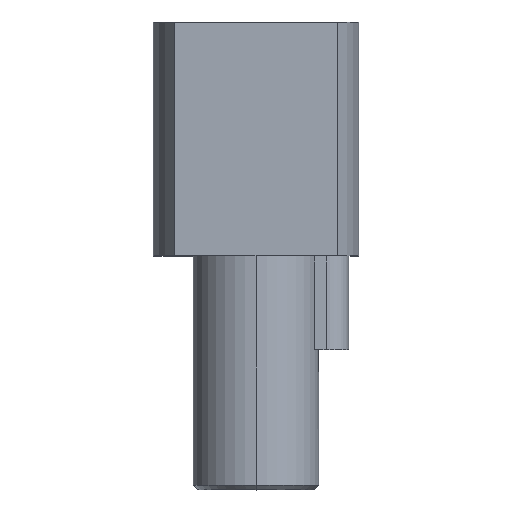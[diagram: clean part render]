
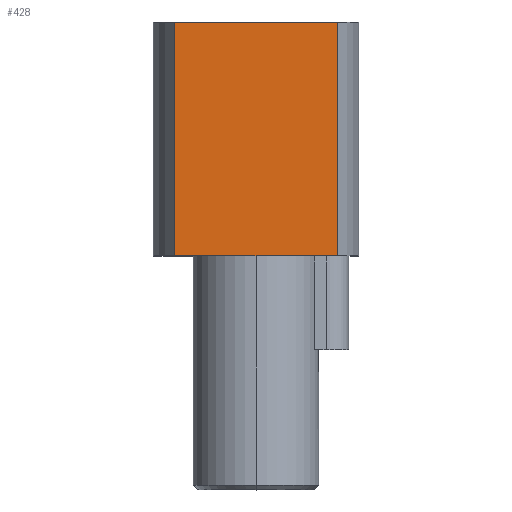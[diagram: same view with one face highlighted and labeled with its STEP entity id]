
A CAD part, top view. The second image highlights one B-rep face of the part: STEP entity #428.
In plain terms, the highlighted planar face has unit normal (0, 0, 1).
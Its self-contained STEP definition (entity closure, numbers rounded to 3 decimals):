
#33 = DIRECTION ( 'NONE',  ( -1., 0., 0. ) ) ;
#38 = ORIENTED_EDGE ( 'NONE', *, *, #660, .F. ) ;
#48 = DIRECTION ( 'NONE',  ( 0., -1., 0. ) ) ;
#89 = VERTEX_POINT ( 'NONE', #519 ) ;
#94 = CARTESIAN_POINT ( 'NONE',  ( -2.485, 15., 1.34 ) ) ;
#100 = PLANE ( 'NONE',  #513 ) ;
#123 = DIRECTION ( 'NONE',  ( 0., 1., 0. ) ) ;
#169 = FACE_OUTER_BOUND ( 'NONE', #407, .T. ) ;
#179 = CARTESIAN_POINT ( 'NONE',  ( -2.2, 10., 1.34 ) ) ;
#190 = CARTESIAN_POINT ( 'NONE',  ( -2.485, 5., 1.34 ) ) ;
#236 = CARTESIAN_POINT ( 'NONE',  ( 1.745, 10., 1.34 ) ) ;
#257 = EDGE_CURVE ( 'NONE', #550, #430, #671, .T. ) ;
#266 = LINE ( 'NONE', #694, #719 ) ;
#305 = VECTOR ( 'NONE', #540, 1000. ) ;
#324 = CARTESIAN_POINT ( 'NONE',  ( 1.745, 0., 1.34 ) ) ;
#346 = CARTESIAN_POINT ( 'NONE',  ( -1.745, 5., 1.34 ) ) ;
#352 = CARTESIAN_POINT ( 'NONE',  ( 0., 5., 1.34 ) ) ;
#401 = ORIENTED_EDGE ( 'NONE', *, *, #257, .T. ) ;
#407 = EDGE_LOOP ( 'NONE', ( #636, #678, #462, #401, #38 ) ) ;
#428 = ADVANCED_FACE ( 'NONE', ( #169 ), #100, .F. ) ;
#430 = VERTEX_POINT ( 'NONE', #644 ) ;
#450 = DIRECTION ( 'NONE',  ( 1., 0., 0. ) ) ;
#457 = EDGE_CURVE ( 'NONE', #756, #550, #266, .T. ) ;
#462 = ORIENTED_EDGE ( 'NONE', *, *, #457, .T. ) ;
#478 = CARTESIAN_POINT ( 'NONE',  ( -1.745, 0., 1.34 ) ) ;
#513 = AXIS2_PLACEMENT_3D ( 'NONE', #94, #749, #33 ) ;
#519 = CARTESIAN_POINT ( 'NONE',  ( -1.745, 10., 1.34 ) ) ;
#540 = DIRECTION ( 'NONE',  ( 1., 0., 0. ) ) ;
#547 = VECTOR ( 'NONE', #123, 1000. ) ;
#549 = DIRECTION ( 'NONE',  ( 1., 0., 0. ) ) ;
#550 = VERTEX_POINT ( 'NONE', #352 ) ;
#598 = LINE ( 'NONE', #478, #547 ) ;
#619 = VERTEX_POINT ( 'NONE', #236 ) ;
#622 = EDGE_CURVE ( 'NONE', #89, #619, #662, .T. ) ;
#623 = EDGE_CURVE ( 'NONE', #756, #89, #598, .T. ) ;
#631 = VECTOR ( 'NONE', #549, 1000. ) ;
#636 = ORIENTED_EDGE ( 'NONE', *, *, #622, .F. ) ;
#640 = LINE ( 'NONE', #324, #741 ) ;
#644 = CARTESIAN_POINT ( 'NONE',  ( 1.745, 5., 1.34 ) ) ;
#660 = EDGE_CURVE ( 'NONE', #619, #430, #640, .T. ) ;
#662 = LINE ( 'NONE', #179, #305 ) ;
#671 = LINE ( 'NONE', #190, #631 ) ;
#678 = ORIENTED_EDGE ( 'NONE', *, *, #623, .F. ) ;
#694 = CARTESIAN_POINT ( 'NONE',  ( -2.485, 5., 1.34 ) ) ;
#719 = VECTOR ( 'NONE', #450, 1000. ) ;
#741 = VECTOR ( 'NONE', #48, 1000. ) ;
#749 = DIRECTION ( 'NONE',  ( 0., 0., -1. ) ) ;
#756 = VERTEX_POINT ( 'NONE', #346 ) ;
